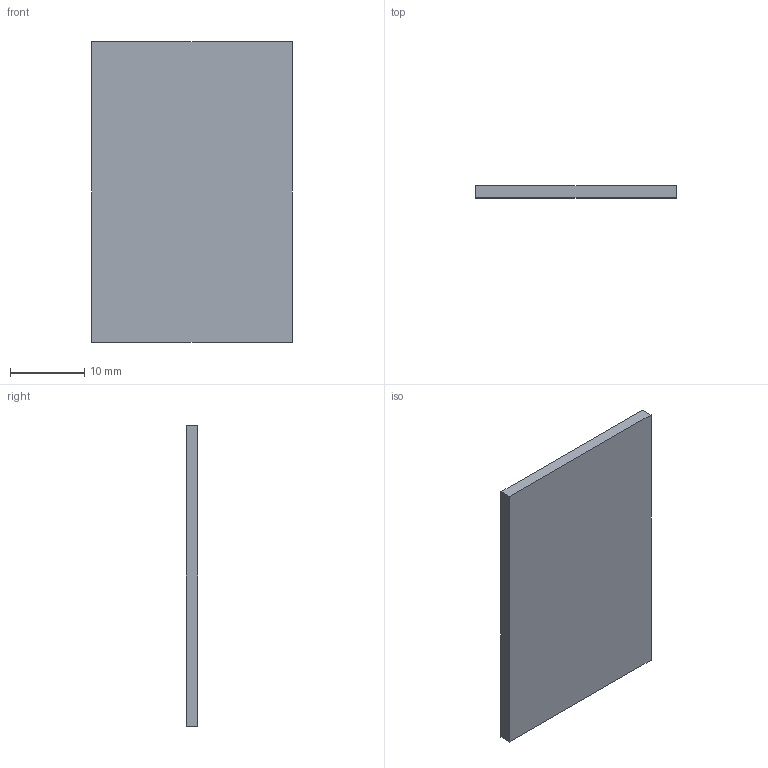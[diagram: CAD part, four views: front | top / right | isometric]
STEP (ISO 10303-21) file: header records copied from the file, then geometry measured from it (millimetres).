
FILE_DESCRIPTION(('Open CASCADE Model'),'2;1');
FILE_NAME('Open CASCADE Shape Model','2026-10-20T14:20:47',('Author'),( 'Open CASCADE'),'Open CASCADE STEP processor 7.8','Open CASCADE 7.8' ,'Unknown');
FILE_SCHEMA(('AUTOMOTIVE_DESIGN { 1 0 10303 214 1 1 1 1 }'));
Length unit declared in the file: millimetre
Products named in the file (1): Open CASCADE STEP translator 7.8 1
Bounding box: 27 x 1.6 x 40.5 mm (x, y, z)
Volume: 1749.6 mm3; surface area: 2403 mm2
Topology: 1 solids, 1 shells, 6 faces, 12 edges, 8 vertices
Faces by surface type: plane 6
Entity records: 322 total; most frequent: CARTESIAN_POINT 51, DIRECTION 50, LINE 36, VECTOR 36, ORIENTED_EDGE 24, PCURVE 24, DEFINITIONAL_REPRESENTATION 24, EDGE_CURVE 12
